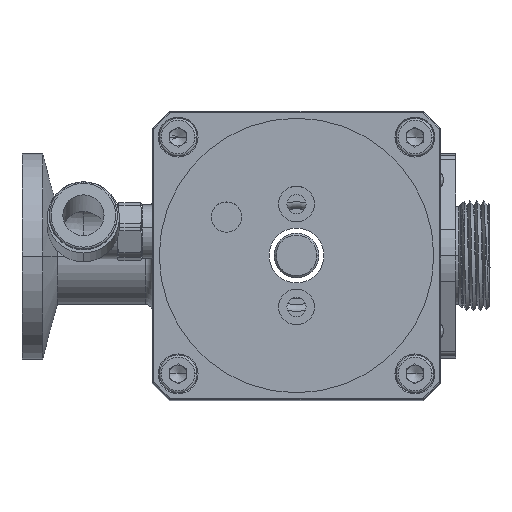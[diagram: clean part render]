
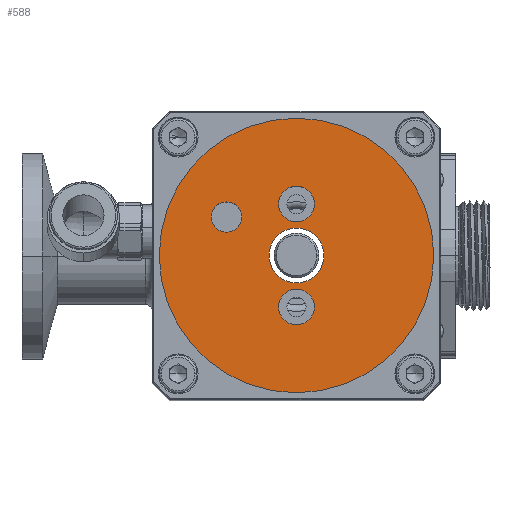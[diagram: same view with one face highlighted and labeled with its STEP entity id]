
A CAD part, top view. The second image highlights one B-rep face of the part: STEP entity #588.
In plain terms, the highlighted planar face has unit normal (0, 0, 1).
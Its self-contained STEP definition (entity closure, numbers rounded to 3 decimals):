
#216 = ORIENTED_EDGE ( 'NONE', *, *, #9170, .T. ) ;
#588 = ADVANCED_FACE ( 'NONE', ( #1506, #7081, #1188, #10722, #2634 ), #5834, .T. ) ;
#642 = CIRCLE ( 'NONE', #6341, 2.6 ) ;
#772 = ORIENTED_EDGE ( 'NONE', *, *, #8555, .T. ) ;
#1030 = ORIENTED_EDGE ( 'NONE', *, *, #10405, .F. ) ;
#1188 = FACE_BOUND ( 'NONE', #3295, .T. ) ;
#1483 = DIRECTION ( 'NONE',  ( 1., 0., 0. ) ) ;
#1506 = FACE_BOUND ( 'NONE', #4366, .T. ) ;
#1559 = EDGE_CURVE ( 'NONE', #4681, #9268, #11682, .T. ) ;
#1611 = VERTEX_POINT ( 'NONE', #8552 ) ;
#1631 = DIRECTION ( 'NONE',  ( 1., 0., 0. ) ) ;
#1770 = CARTESIAN_POINT ( 'NONE',  ( 0., -7.5, 87.8 ) ) ;
#1957 = DIRECTION ( 'NONE',  ( 0., 0., -1. ) ) ;
#2047 = EDGE_CURVE ( 'NONE', #5952, #8833, #4331, .T. ) ;
#2363 = DIRECTION ( 'NONE',  ( 1., 0., 0. ) ) ;
#2618 = VERTEX_POINT ( 'NONE', #9840 ) ;
#2634 = FACE_BOUND ( 'NONE', #11093, .T. ) ;
#2758 = DIRECTION ( 'NONE',  ( 0., 0., 1. ) ) ;
#2970 = CIRCLE ( 'NONE', #5075, 4. ) ;
#2979 = DIRECTION ( 'NONE',  ( 0., 0., 1. ) ) ;
#3295 = EDGE_LOOP ( 'NONE', ( #12568, #11941 ) ) ;
#3373 = CARTESIAN_POINT ( 'NONE',  ( -2.6, 7.5, 87.8 ) ) ;
#3431 = DIRECTION ( 'NONE',  ( 0., 0., 1. ) ) ;
#3481 = DIRECTION ( 'NONE',  ( 0., 0., -1. ) ) ;
#3504 = EDGE_CURVE ( 'NONE', #8833, #5952, #642, .T. ) ;
#3511 = CARTESIAN_POINT ( 'NONE',  ( 0., 0., 87.8 ) ) ;
#3735 = CARTESIAN_POINT ( 'NONE',  ( 0., 0., 87.8 ) ) ;
#3905 = CARTESIAN_POINT ( 'NONE',  ( 0., -7.5, 87.8 ) ) ;
#3934 = AXIS2_PLACEMENT_3D ( 'NONE', #1770, #11226, #4920 ) ;
#4157 = CIRCLE ( 'NONE', #6567, 20. ) ;
#4211 = AXIS2_PLACEMENT_3D ( 'NONE', #3735, #2758, #10132 ) ;
#4229 = CARTESIAN_POINT ( 'NONE',  ( 2.6, -7.5, 87.8 ) ) ;
#4331 = CIRCLE ( 'NONE', #7120, 2.6 ) ;
#4366 = EDGE_LOOP ( 'NONE', ( #1030, #10293 ) ) ;
#4404 = DIRECTION ( 'NONE',  ( 0., 0., 1. ) ) ;
#4425 = CARTESIAN_POINT ( 'NONE',  ( 0., 0., 87.8 ) ) ;
#4681 = VERTEX_POINT ( 'NONE', #4229 ) ;
#4920 = DIRECTION ( 'NONE',  ( 1., 0., 0. ) ) ;
#5075 = AXIS2_PLACEMENT_3D ( 'NONE', #3511, #10829, #9857 ) ;
#5324 = ORIENTED_EDGE ( 'NONE', *, *, #10344, .T. ) ;
#5514 = DIRECTION ( 'NONE',  ( 0., 0., 1. ) ) ;
#5574 = VERTEX_POINT ( 'NONE', #11872 ) ;
#5600 = AXIS2_PLACEMENT_3D ( 'NONE', #4425, #5514, #2363 ) ;
#5834 = PLANE ( 'NONE',  #4211 ) ;
#5952 = VERTEX_POINT ( 'NONE', #3373 ) ;
#6237 = ORIENTED_EDGE ( 'NONE', *, *, #2047, .F. ) ;
#6341 = AXIS2_PLACEMENT_3D ( 'NONE', #9735, #3431, #10792 ) ;
#6567 = AXIS2_PLACEMENT_3D ( 'NONE', #8665, #10778, #1483 ) ;
#6614 = VERTEX_POINT ( 'NONE', #7897 ) ;
#7081 = FACE_BOUND ( 'NONE', #10542, .T. ) ;
#7120 = AXIS2_PLACEMENT_3D ( 'NONE', #9898, #13159, #1631 ) ;
#7178 = DIRECTION ( 'NONE',  ( 1., 0., 0. ) ) ;
#7189 = CARTESIAN_POINT ( 'NONE',  ( -10.2, 5.6, 87.8 ) ) ;
#7703 = DIRECTION ( 'NONE',  ( 1., 0., 0. ) ) ;
#7843 = CARTESIAN_POINT ( 'NONE',  ( -2.6, -7.5, 87.8 ) ) ;
#7897 = CARTESIAN_POINT ( 'NONE',  ( -8., 5.6, 87.8 ) ) ;
#7903 = CARTESIAN_POINT ( 'NONE',  ( 4., 0., 87.8 ) ) ;
#7973 = CIRCLE ( 'NONE', #12830, 2.2 ) ;
#8167 = EDGE_CURVE ( 'NONE', #5574, #1611, #8349, .T. ) ;
#8349 = CIRCLE ( 'NONE', #11489, 20. ) ;
#8552 = CARTESIAN_POINT ( 'NONE',  ( 20., 0., 87.8 ) ) ;
#8555 = EDGE_CURVE ( 'NONE', #8961, #6614, #12442, .T. ) ;
#8614 = CIRCLE ( 'NONE', #5600, 4. ) ;
#8665 = CARTESIAN_POINT ( 'NONE',  ( 0., 0., 87.8 ) ) ;
#8747 = CIRCLE ( 'NONE', #10982, 2.6 ) ;
#8833 = VERTEX_POINT ( 'NONE', #10428 ) ;
#8961 = VERTEX_POINT ( 'NONE', #10534 ) ;
#9124 = ORIENTED_EDGE ( 'NONE', *, *, #8167, .T. ) ;
#9170 = EDGE_CURVE ( 'NONE', #6614, #8961, #7973, .T. ) ;
#9268 = VERTEX_POINT ( 'NONE', #7843 ) ;
#9313 = DIRECTION ( 'NONE',  ( 1., 0., 0. ) ) ;
#9488 = ORIENTED_EDGE ( 'NONE', *, *, #3504, .F. ) ;
#9602 = CARTESIAN_POINT ( 'NONE',  ( 0., 0., 87.8 ) ) ;
#9735 = CARTESIAN_POINT ( 'NONE',  ( 0., 7.5, 87.8 ) ) ;
#9778 = EDGE_LOOP ( 'NONE', ( #5324, #9124 ) ) ;
#9783 = CARTESIAN_POINT ( 'NONE',  ( -10.2, 5.6, 87.8 ) ) ;
#9840 = CARTESIAN_POINT ( 'NONE',  ( -4., 0., 87.8 ) ) ;
#9857 = DIRECTION ( 'NONE',  ( 1., 0., 0. ) ) ;
#9898 = CARTESIAN_POINT ( 'NONE',  ( 0., 7.5, 87.8 ) ) ;
#10132 = DIRECTION ( 'NONE',  ( 1., 0., 0. ) ) ;
#10268 = AXIS2_PLACEMENT_3D ( 'NONE', #7189, #1957, #9313 ) ;
#10293 = ORIENTED_EDGE ( 'NONE', *, *, #11458, .F. ) ;
#10344 = EDGE_CURVE ( 'NONE', #1611, #5574, #4157, .T. ) ;
#10405 = EDGE_CURVE ( 'NONE', #2618, #13304, #8614, .T. ) ;
#10428 = CARTESIAN_POINT ( 'NONE',  ( 2.6, 7.5, 87.8 ) ) ;
#10534 = CARTESIAN_POINT ( 'NONE',  ( -12.4, 5.6, 87.8 ) ) ;
#10542 = EDGE_LOOP ( 'NONE', ( #6237, #9488 ) ) ;
#10722 = FACE_OUTER_BOUND ( 'NONE', #9778, .T. ) ;
#10778 = DIRECTION ( 'NONE',  ( 0., 0., 1. ) ) ;
#10792 = DIRECTION ( 'NONE',  ( 1., 0., 0. ) ) ;
#10829 = DIRECTION ( 'NONE',  ( 0., 0., 1. ) ) ;
#10982 = AXIS2_PLACEMENT_3D ( 'NONE', #3905, #2979, #7178 ) ;
#11093 = EDGE_LOOP ( 'NONE', ( #216, #772 ) ) ;
#11226 = DIRECTION ( 'NONE',  ( 0., 0., 1. ) ) ;
#11458 = EDGE_CURVE ( 'NONE', #13304, #2618, #2970, .T. ) ;
#11489 = AXIS2_PLACEMENT_3D ( 'NONE', #9602, #4404, #12821 ) ;
#11662 = EDGE_CURVE ( 'NONE', #9268, #4681, #8747, .T. ) ;
#11682 = CIRCLE ( 'NONE', #3934, 2.6 ) ;
#11872 = CARTESIAN_POINT ( 'NONE',  ( -20., 0., 87.8 ) ) ;
#11941 = ORIENTED_EDGE ( 'NONE', *, *, #1559, .F. ) ;
#12442 = CIRCLE ( 'NONE', #10268, 2.2 ) ;
#12568 = ORIENTED_EDGE ( 'NONE', *, *, #11662, .F. ) ;
#12821 = DIRECTION ( 'NONE',  ( 1., 0., 0. ) ) ;
#12830 = AXIS2_PLACEMENT_3D ( 'NONE', #9783, #3481, #7703 ) ;
#13159 = DIRECTION ( 'NONE',  ( 0., 0., 1. ) ) ;
#13304 = VERTEX_POINT ( 'NONE', #7903 ) ;
